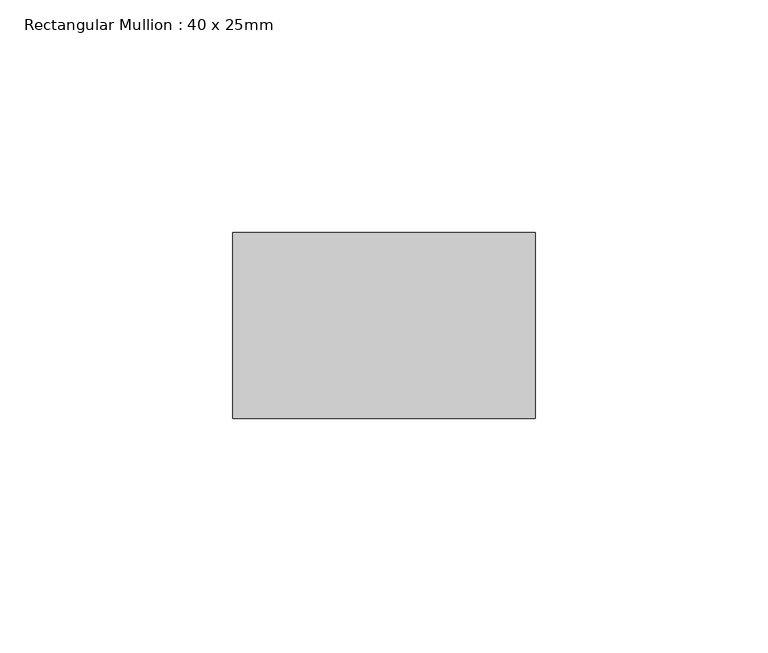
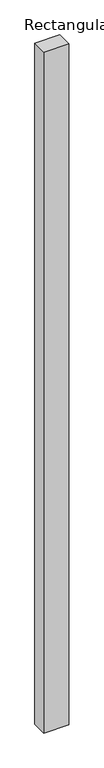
"""IFC4 building model written with IfcOpenShell, lengths in millimetres: member geometry, Rectangular Mullion : 40 x 25mm."""

import ifcopenshell
import ifcopenshell.guid

model = None  # the IFC model being written
_history = None  # IfcOwnerHistory: only IFC2X3 demands one
_inside = {}  # id of a spatial element -> (the spatial element, [elements in it])
_under = {}  # id of a project, library or spatial element -> (it, [spatial elements below it])
_declared = {}  # id of a project -> (the project, [libraries it declares])
_typed = {}  # id of a type object -> (the type object, [elements of that type])
_made_of = {}  # id of a material, layer set ... -> (it, [elements and type objects made of it])


def new_model(schema):
    """Start an empty IFC model of exactly this schema.

    Asked for "IFC4X3", IfcOpenShell would pick the latest addendum, in which some entities
    have other attributes; the version numbers below select the first issue.
    IFC2X3 requires an IfcOwnerHistory on every rooted entity: one is made here for all.
    """
    global model, _history
    if schema == "IFC4X3":
        model = ifcopenshell.file(schema_version=(4, 3, 0, 0))
    else:
        model = ifcopenshell.file(schema=schema)
    _inside.clear()
    _under.clear()
    _declared.clear()
    _typed.clear()
    _made_of.clear()
    _history = None
    if model.schema == "IFC2X3":
        org = make("IfcOrganization", Name="unknown")
        user = make(
            "IfcPersonAndOrganization",
            ThePerson=make("IfcPerson", FamilyName="unknown"),
            TheOrganization=org,
        )
        app = make(
            "IfcApplication",
            ApplicationDeveloper=org,
            Version="unknown",
            ApplicationFullName="unknown",
            ApplicationIdentifier="unknown",
        )
        _history = make(
            "IfcOwnerHistory",
            OwningUser=user,
            OwningApplication=app,
            ChangeAction="ADDED",
            CreationDate=0,
        )
    return model


def make(cls, **values):
    """One entity of the class cls with the attributes given. An attribute that is None is left unset."""
    return model.create_entity(
        cls, **{name: value for name, value in values.items() if value is not None}
    )


def rooted(cls, **values):
    """An entity with a GlobalId (a new one), such as an element, a storey or a relation."""
    return make(cls, GlobalId=ifcopenshell.guid.new(), OwnerHistory=_history, **values)


def si_unit(unit_type, name, prefix=None):
    """IfcSIUnit, for example si_unit("LENGTHUNIT", "METRE", prefix="MILLI")."""
    return make("IfcSIUnit", UnitType=unit_type, Prefix=prefix, Name=name)


def assignment(units):
    """IfcUnitAssignment: the units of a project."""
    return None if units is None else make("IfcUnitAssignment", Units=units)


def point(xyz):
    """IfcCartesianPoint."""
    return None if xyz is None else make("IfcCartesianPoint", Coordinates=xyz)


def direction(xyz):
    """IfcDirection."""
    return None if xyz is None else make("IfcDirection", DirectionRatios=xyz)


def frame(location, z_axis=None, x_axis=None):
    """IfcAxis2Placement3D, a coordinate frame: its origin and axes. An axis left out is left unset."""
    return make(
        "IfcAxis2Placement3D",
        Location=point(location),
        Axis=direction(z_axis),
        RefDirection=direction(x_axis),
    )


def origin():
    """The frame at (0, 0, 0) with its axes left unset."""
    return frame((0.0, 0.0, 0.0))


def place(relative_to, where):
    """IfcLocalPlacement: puts the frame where relative to a parent placement (None: the world)."""
    return make(
        "IfcLocalPlacement", PlacementRelTo=relative_to, RelativePlacement=where
    )


def context(
    kind, dimensions, precision=None, world=None, true_north=None, identifier=None
):
    """IfcGeometricRepresentationContext, for example the 3D "Model" context."""
    return make(
        "IfcGeometricRepresentationContext",
        ContextIdentifier=identifier,
        ContextType=kind,
        CoordinateSpaceDimension=dimensions,
        Precision=precision,
        WorldCoordinateSystem=world,
        TrueNorth=true_north,
    )


def project(units=None, contexts=None):
    """IfcProject with its units and contexts."""
    return rooted(
        "IfcProject",
        Name="project",
        RepresentationContexts=contexts,
        UnitsInContext=assignment(units),
    )


def spatial(cls, under=None, at=None, **own):
    """A site, building, storey or space (cls), placed at a placement, below another one or the project."""
    s = rooted(cls, ObjectPlacement=at, **own)
    if under is not None:
        _under.setdefault(under.id(), (under, []))[1].append(s)
    return s


def polyline(points):
    """IfcPolyline through the points."""
    return make("IfcPolyline", Points=[point(p) for p in points])


def outline(outer, holes=None, kind="AREA"):
    """IfcArbitraryClosedProfileDef: a profile drawn as a closed curve; with holes, ...WithVoids."""
    if holes is None:
        return make("IfcArbitraryClosedProfileDef", ProfileType=kind, OuterCurve=outer)
    return make(
        "IfcArbitraryProfileDefWithVoids",
        ProfileType=kind,
        OuterCurve=outer,
        InnerCurves=holes,
    )


def extrude(swept, where, along, depth):
    """IfcExtrudedAreaSolid: the profile swept, set in the frame where, extruded along a direction by depth."""
    return make(
        "IfcExtrudedAreaSolid",
        SweptArea=swept,
        Position=where,
        ExtrudedDirection=direction(along),
        Depth=depth,
    )


def shape(context_of_items, identifier, shape_type, items):
    """IfcShapeRepresentation: the items that make up one representation, for example the "Body"."""
    return make(
        "IfcShapeRepresentation",
        ContextOfItems=context_of_items,
        RepresentationIdentifier=identifier,
        RepresentationType=shape_type,
        Items=items,
    )


def source(mapping_origin, context_of_items, identifier, shape_type, items):
    """IfcRepresentationMap: a shape defined once, which mapped items show again and again."""
    return make(
        "IfcRepresentationMap",
        MappingOrigin=mapping_origin,
        MappedRepresentation=shape(context_of_items, identifier, shape_type, items),
    )


def transform(
    local_origin,
    x_axis=None,
    y_axis=None,
    z_axis=None,
    scale=None,
    scale2=None,
    scale3=None,
    uniform=True,
):
    """IfcCartesianTransformationOperator3D, or its non-uniform kind. x_axis, y_axis, z_axis: its Axis1, 2, 3."""
    if uniform:
        return make(
            "IfcCartesianTransformationOperator3D",
            Axis1=direction(x_axis),
            Axis2=direction(y_axis),
            LocalOrigin=point(local_origin),
            Scale=scale,
            Axis3=direction(z_axis),
        )
    return make(
        "IfcCartesianTransformationOperator3DnonUniform",
        Axis1=direction(x_axis),
        Axis2=direction(y_axis),
        LocalOrigin=point(local_origin),
        Scale=scale,
        Axis3=direction(z_axis),
        Scale2=scale2,
        Scale3=scale3,
    )


def mapped(mapping_source, mapping_target):
    """IfcMappedItem: shows the shape of a source again, moved by a transform."""
    return make(
        "IfcMappedItem", MappingSource=mapping_source, MappingTarget=mapping_target
    )


def made_of(thing, what):
    """Note that an element or type object is made of a material, layer set ...; save() writes the relation."""
    if what is not None:
        _made_of.setdefault(what.id(), (what, []))[1].append(thing)
    return thing


def element(
    cls,
    number,
    at=None,
    inside=None,
    cuts=None,
    type_object=None,
    material=None,
    context=None,
    identifier="Body",
    shape_type=None,
    held_by="IfcProductDefinitionShape",
    body=None,
    shapes=None,
    **own,
):
    """One element of the class cls, such as IfcWall. Its Tag is "e" and its number.

    at: its placement. inside: the storey or other place that contains it. cuts: it is an
    opening in that element (IfcRelVoidsElement). A single representation is given by context,
    identifier, shape_type and body (its items); several are given by shapes. held_by: the class
    of the entity that holds the representations. save() writes the other relations.
    """
    e = rooted(cls, Tag="e%d" % number, ObjectPlacement=at, **own)
    if body is not None:
        shapes = [shape(context, identifier, shape_type, body)]
    if shapes is not None:
        e.Representation = make(held_by, Representations=shapes)
    if inside is not None:
        _inside.setdefault(inside.id(), (inside, []))[1].append(e)
    if cuts is not None:
        rooted(
            "IfcRelVoidsElement", RelatingBuildingElement=cuts, RelatedOpeningElement=e
        )
    if type_object is not None:
        _typed.setdefault(type_object.id(), (type_object, []))[1].append(e)
    return made_of(e, material)


def aggregate(whole, parts):
    """IfcRelAggregates: a whole, such as a stair, and the parts it consists of."""
    return rooted("IfcRelAggregates", RelatingObject=whole, RelatedObjects=parts)


def save(model, path):
    """Write the relations noted so far, then the file.

    IfcRelAggregates (storeys below a building ...), IfcRelContainedInSpatialStructure (elements
    in a storey), IfcRelDefinesByType, IfcRelAssociatesMaterial and IfcRelDeclares: one each for
    every whole, place, type object, material and project.
    """
    for whole, parts in _under.values():
        aggregate(whole, parts)
    for where, things in _inside.values():
        rooted(
            "IfcRelContainedInSpatialStructure",
            RelatedElements=things,
            RelatingStructure=where,
        )
    for kind, things in _typed.values():
        rooted("IfcRelDefinesByType", RelatedObjects=things, RelatingType=kind)
    for what, things in _made_of.values():
        rooted("IfcRelAssociatesMaterial", RelatedObjects=things, RelatingMaterial=what)
    for by, libraries in _declared.values():
        rooted("IfcRelDeclares", RelatingContext=by, RelatedDefinitions=libraries)
    model.write(path)


def rectangular_mullion_40_x_25mm_efa4b150(model_context):
    return source(origin(), model_context, "Body", "SweptSolid", [
        extrude(outline(polyline([(0.0, -20.0), (0.0, -60.0), (-65.0, -60.0), (-65.0, -20.0), (0.0, -20.0)])), frame((0.0, 0.0, -1869.7666667), z_axis=(0.0, 0.0, 1.0), x_axis=(1.0, 0.0, 0.0)), (0.0, 0.0, 1.0), 1869.7666667),
    ])


if __name__ == "__main__":
    model = new_model("IFC4")
    model_context = context("Model", 3, world=origin())
    ifc_project = project(units=[si_unit("LENGTHUNIT", "METRE", prefix="MILLI")], contexts=[model_context])
    site = spatial("IfcSite", under=ifc_project)
    building = spatial("IfcBuilding", under=site)
    placement = place(None, origin())
    rectangular_mullion_40_x_25mm_shape = rectangular_mullion_40_x_25mm_efa4b150(model_context)
    element("IfcMember", 1, ObjectType="Rectangular Mullion : 40 x 25mm", at=placement, inside=building, context=model_context, shape_type="MappedRepresentation", body=[
        mapped(rectangular_mullion_40_x_25mm_shape, transform((0.0, 0.0, 0.0), x_axis=(1.0, 0.0, 0.0), y_axis=(0.0, 1.0, 0.0), z_axis=(0.0, 0.0, 1.0))),
    ])
    save(model, "model.ifc")
